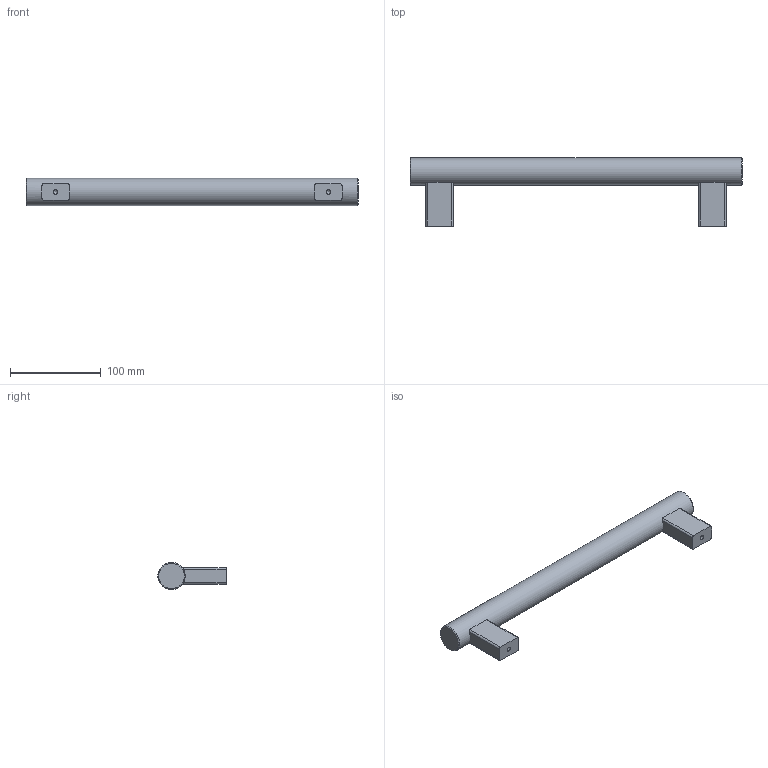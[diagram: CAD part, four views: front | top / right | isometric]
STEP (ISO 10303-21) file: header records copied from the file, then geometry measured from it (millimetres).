
FILE_DESCRIPTION( ( 'STEP AP203' ), '1' );
FILE_NAME( 'C:/Temp/Ganter_Step_05_03_2020/data/1_2/gn_666/Tubular handle GN 666-30-M6-300-SW.stp', '2020-03-05T10:18:17', ( 'License CC BY-ND 4.0' ), ( 'CADENAS' ), ' ', 'PARTsolutions', ' ' );
FILE_SCHEMA( ( 'CONFIG_CONTROL_DESIGN' ) );
Length unit declared in the file: millimetre
Products named in the file (1): _Tubular handle GN 666-30-M6-300-SW
Bounding box: 365 x 75 x 30 mm (x, y, z)
Volume: 306651.6 mm3; surface area: 44812.7 mm2
Topology: 1 solids, 1 shells, 27 faces, 65 edges, 42 vertices
Faces by surface type: plane 12, cylinder 11, cone 4
Full cylindrical faces by diameter (mm): 4.917 x2, 30 x1
Entity records: 882 total; most frequent: CARTESIAN_POINT 238, DIRECTION 124, ORIENTED_EDGE 112, EDGE_CURVE 56, AXIS2_PLACEMENT_3D 48, VERTEX_POINT 42, EDGE_LOOP 36, FACE_OUTER_BOUND 30
